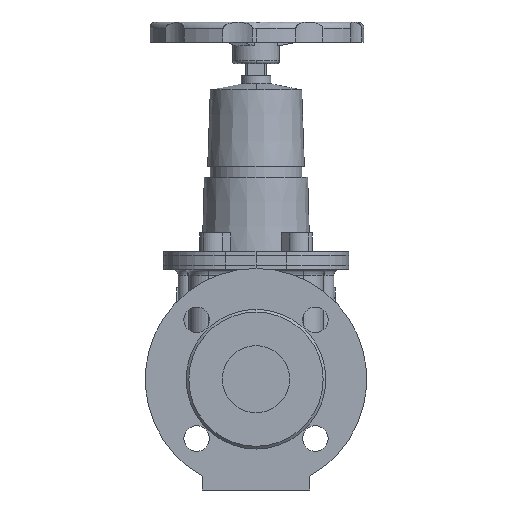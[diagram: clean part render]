
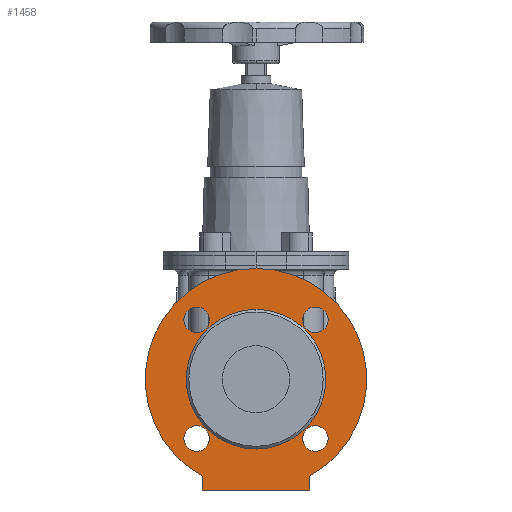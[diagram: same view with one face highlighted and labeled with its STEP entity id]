
A CAD part, left-side view. The second image highlights one B-rep face of the part: STEP entity #1458.
In plain terms, the highlighted planar face has unit normal (-1, 0, 0).
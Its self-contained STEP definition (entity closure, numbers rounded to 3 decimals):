
#1458=ADVANCED_FACE('',(#3026,#3027,#3028,#3029,#3030,#3031),#3032,.F.);
#3026=FACE_BOUND('',#5177,.T.);
#3027=FACE_BOUND('',#5178,.T.);
#3028=FACE_BOUND('',#5179,.T.);
#3029=FACE_BOUND('',#5180,.T.);
#3030=FACE_BOUND('',#5181,.T.);
#3031=FACE_OUTER_BOUND('',#5182,.T.);
#3032=PLANE('',#5183);
#5177=EDGE_LOOP('',(#7586,#7587));
#5178=EDGE_LOOP('',(#7588,#7589));
#5179=EDGE_LOOP('',(#7590,#7591));
#5180=EDGE_LOOP('',(#7592,#7593));
#5181=EDGE_LOOP('',(#7594,#7595));
#5182=EDGE_LOOP('',(#7596,#7597,#7598,#7599,#7600));
#5183=AXIS2_PLACEMENT_3D('',#7601,#7602,#7603);
#7586=ORIENTED_EDGE('',*,*,#12076,.T.);
#7587=ORIENTED_EDGE('',*,*,#11969,.T.);
#7588=ORIENTED_EDGE('',*,*,#12077,.T.);
#7589=ORIENTED_EDGE('',*,*,#12078,.T.);
#7590=ORIENTED_EDGE('',*,*,#12079,.T.);
#7591=ORIENTED_EDGE('',*,*,#12080,.T.);
#7592=ORIENTED_EDGE('',*,*,#12081,.T.);
#7593=ORIENTED_EDGE('',*,*,#12082,.T.);
#7594=ORIENTED_EDGE('',*,*,#11587,.T.);
#7595=ORIENTED_EDGE('',*,*,#12083,.T.);
#7596=ORIENTED_EDGE('',*,*,#12084,.F.);
#7597=ORIENTED_EDGE('',*,*,#12085,.F.);
#7598=ORIENTED_EDGE('',*,*,#12086,.F.);
#7599=ORIENTED_EDGE('',*,*,#11802,.F.);
#7600=ORIENTED_EDGE('',*,*,#12087,.F.);
#7601=CARTESIAN_POINT('',(2.0,0.0,0.));
#7602=DIRECTION('',(1.0,0.0,0.));
#7603=DIRECTION('',(0.,0.0,-1.0));
#11587=EDGE_CURVE('',#13573,#13577,#13579,.T.);
#11802=EDGE_CURVE('',#13947,#13950,#13951,.T.);
#11969=EDGE_CURVE('',#14229,#14227,#14230,.T.);
#12076=EDGE_CURVE('',#14227,#14229,#14400,.T.);
#12077=EDGE_CURVE('',#14401,#14402,#14403,.T.);
#12078=EDGE_CURVE('',#14402,#14401,#14404,.T.);
#12079=EDGE_CURVE('',#14405,#14406,#14407,.T.);
#12080=EDGE_CURVE('',#14406,#14405,#14408,.T.);
#12081=EDGE_CURVE('',#14409,#14410,#14411,.T.);
#12082=EDGE_CURVE('',#14410,#14409,#14412,.T.);
#12083=EDGE_CURVE('',#13577,#13573,#14413,.T.);
#12084=EDGE_CURVE('',#14414,#14415,#14416,.T.);
#12085=EDGE_CURVE('',#14417,#14414,#14418,.T.);
#12086=EDGE_CURVE('',#13950,#14417,#14419,.T.);
#12087=EDGE_CURVE('',#14415,#13947,#14420,.T.);
#13573=VERTEX_POINT('',#16422);
#13577=VERTEX_POINT('',#16427);
#13579=CIRCLE('',#16430,9.5);
#13947=VERTEX_POINT('',#17020);
#13950=VERTEX_POINT('',#17024);
#13951=LINE('',#17025,#17026);
#14227=VERTEX_POINT('',#17412);
#14229=VERTEX_POINT('',#17415);
#14230=CIRCLE('',#17416,25.0);
#14400=CIRCLE('',#17637,25.0);
#14401=VERTEX_POINT('',#17638);
#14402=VERTEX_POINT('',#17639);
#14403=CIRCLE('',#17640,9.5);
#14404=CIRCLE('',#17641,9.5);
#14405=VERTEX_POINT('',#17642);
#14406=VERTEX_POINT('',#17643);
#14407=CIRCLE('',#17644,9.5);
#14408=CIRCLE('',#17645,9.5);
#14409=VERTEX_POINT('',#17646);
#14410=VERTEX_POINT('',#17647);
#14411=CIRCLE('',#17648,9.5);
#14412=CIRCLE('',#17649,9.5);
#14413=CIRCLE('',#17650,9.5);
#14414=VERTEX_POINT('',#17651);
#14415=VERTEX_POINT('',#17652);
#14416=CIRCLE('',#17653,82.5);
#14417=VERTEX_POINT('',#17654);
#14418=LINE('',#17655,#17656);
#14419=LINE('',#17657,#17658);
#14420=CIRCLE('',#17659,82.5);
#16422=CARTESIAN_POINT('',(2.0,-44.194,-53.694));
#16427=CARTESIAN_POINT('',(2.0,-44.194,-34.694));
#16430=AXIS2_PLACEMENT_3D('',#20128,#20129,#20130);
#17020=CARTESIAN_POINT('',(2.0,-40.0,-72.154));
#17024=CARTESIAN_POINT('',(2.0,-40.0,-82.5));
#17025=CARTESIAN_POINT('',(2.0,-40.0,-62.5));
#17026=VECTOR('',#20458,1.0);
#17412=CARTESIAN_POINT('',(2.0,0.0,-25.0));
#17415=CARTESIAN_POINT('',(2.0,0.,25.0));
#17416=AXIS2_PLACEMENT_3D('',#20675,#20676,#20677);
#17637=AXIS2_PLACEMENT_3D('',#20810,#20811,#20812);
#17638=CARTESIAN_POINT('',(2.0,44.194,-53.694));
#17639=CARTESIAN_POINT('',(2.0,44.194,-34.694));
#17640=AXIS2_PLACEMENT_3D('',#20813,#20814,#20815);
#17641=AXIS2_PLACEMENT_3D('',#20816,#20817,#20818);
#17642=CARTESIAN_POINT('',(2.0,44.194,34.694));
#17643=CARTESIAN_POINT('',(2.0,44.194,53.694));
#17644=AXIS2_PLACEMENT_3D('',#20819,#20820,#20821);
#17645=AXIS2_PLACEMENT_3D('',#20822,#20823,#20824);
#17646=CARTESIAN_POINT('',(2.0,-44.194,34.694));
#17647=CARTESIAN_POINT('',(2.0,-44.194,53.694));
#17648=AXIS2_PLACEMENT_3D('',#20825,#20826,#20827);
#17649=AXIS2_PLACEMENT_3D('',#20828,#20829,#20830);
#17650=AXIS2_PLACEMENT_3D('',#20831,#20832,#20833);
#17651=CARTESIAN_POINT('',(2.0,40.0,-72.154));
#17652=CARTESIAN_POINT('',(2.,0.,82.5));
#17653=AXIS2_PLACEMENT_3D('',#20834,#20835,#20836);
#17654=CARTESIAN_POINT('',(2.0,40.0,-82.5));
#17655=CARTESIAN_POINT('',(2.0,40.0,-82.5));
#17656=VECTOR('',#20837,1.0);
#17657=CARTESIAN_POINT('',(2.0,-40.0,-82.5));
#17658=VECTOR('',#20838,1.0);
#17659=AXIS2_PLACEMENT_3D('',#20839,#20840,#20841);
#20128=CARTESIAN_POINT('',(2.0,-44.194,-44.194));
#20129=DIRECTION('',(1.0,0.0,0.));
#20130=DIRECTION('',(0.,0.0,-1.0));
#20458=DIRECTION('',(0.0,0.0,-1.0));
#20675=CARTESIAN_POINT('',(2.0,0.0,0.));
#20676=DIRECTION('',(1.0,0.0,0.));
#20677=DIRECTION('',(0.,0.0,-1.0));
#20810=CARTESIAN_POINT('',(2.0,0.0,0.));
#20811=DIRECTION('',(1.0,0.0,0.));
#20812=DIRECTION('',(0.,0.0,-1.0));
#20813=CARTESIAN_POINT('',(2.0,44.194,-44.194));
#20814=DIRECTION('',(1.0,0.0,0.));
#20815=DIRECTION('',(0.,0.0,-1.0));
#20816=CARTESIAN_POINT('',(2.0,44.194,-44.194));
#20817=DIRECTION('',(1.0,0.0,0.));
#20818=DIRECTION('',(0.,0.0,-1.0));
#20819=CARTESIAN_POINT('',(2.0,44.194,44.194));
#20820=DIRECTION('',(1.0,0.0,0.));
#20821=DIRECTION('',(0.,0.0,-1.0));
#20822=CARTESIAN_POINT('',(2.0,44.194,44.194));
#20823=DIRECTION('',(1.0,0.0,0.));
#20824=DIRECTION('',(0.,0.0,-1.0));
#20825=CARTESIAN_POINT('',(2.0,-44.194,44.194));
#20826=DIRECTION('',(1.0,0.0,0.));
#20827=DIRECTION('',(0.,0.0,-1.0));
#20828=CARTESIAN_POINT('',(2.0,-44.194,44.194));
#20829=DIRECTION('',(1.0,0.0,0.));
#20830=DIRECTION('',(0.,0.0,-1.0));
#20831=CARTESIAN_POINT('',(2.0,-44.194,-44.194));
#20832=DIRECTION('',(1.0,0.0,0.));
#20833=DIRECTION('',(0.,0.0,-1.0));
#20834=CARTESIAN_POINT('',(2.0,0.0,0.));
#20835=DIRECTION('',(1.0,0.0,0.));
#20836=DIRECTION('',(0.,0.0,-1.0));
#20837=DIRECTION('',(0.0,0.0,1.0));
#20838=DIRECTION('',(0.0,1.0,0.0));
#20839=CARTESIAN_POINT('',(2.0,0.0,0.));
#20840=DIRECTION('',(1.0,0.0,0.));
#20841=DIRECTION('',(0.,0.0,-1.0));
